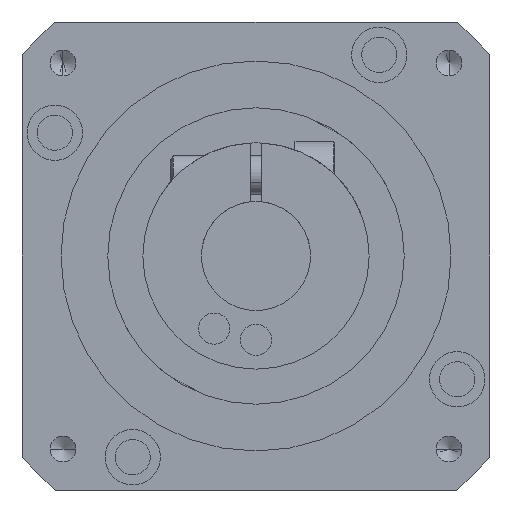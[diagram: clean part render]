
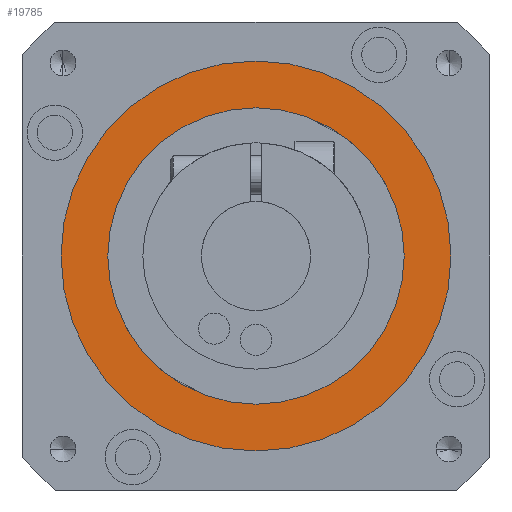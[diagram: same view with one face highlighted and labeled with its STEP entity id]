
A CAD part, front view. The second image highlights one B-rep face of the part: STEP entity #19785.
In plain terms, the highlighted planar face has unit normal (0, -1, 0).
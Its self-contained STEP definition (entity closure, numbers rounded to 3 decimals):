
#1479 = CIRCLE ( 'NONE', #23148, 25. ) ;
#3164 = AXIS2_PLACEMENT_3D ( 'NONE', #12660, #12458, #12360 ) ;
#3379 = DIRECTION ( 'NONE',  ( 0., 0., 1. ) ) ;
#3483 = DIRECTION ( 'NONE',  ( 0., 1., 0. ) ) ;
#3595 = CARTESIAN_POINT ( 'NONE',  ( 0., -36., 0. ) ) ;
#4606 = FACE_BOUND ( 'NONE', #25715, .T. ) ;
#6307 = VERTEX_POINT ( 'NONE', #19021 ) ;
#7834 = CARTESIAN_POINT ( 'NONE',  ( 0., -36., 19. ) ) ;
#8188 = DIRECTION ( 'NONE',  ( 0., 0., 1. ) ) ;
#8215 = DIRECTION ( 'NONE',  ( 0., -1., 0. ) ) ;
#8250 = CARTESIAN_POINT ( 'NONE',  ( 0., -36., 0. ) ) ;
#9105 = AXIS2_PLACEMENT_3D ( 'NONE', #18597, #18565, #18499 ) ;
#9591 = VERTEX_POINT ( 'NONE', #15975 ) ;
#12360 = DIRECTION ( 'NONE',  ( 0., 0., 1. ) ) ;
#12458 = DIRECTION ( 'NONE',  ( 0., -1., 0. ) ) ;
#12660 = CARTESIAN_POINT ( 'NONE',  ( 0., -36., 0. ) ) ;
#14044 = CIRCLE ( 'NONE', #22446, 19. ) ;
#14233 = EDGE_CURVE ( 'NONE', #6307, #24536, #1479, .T. ) ;
#14423 = ORIENTED_EDGE ( 'NONE', *, *, #15842, .T. ) ;
#14885 = DIRECTION ( 'NONE',  ( 0., 0., 1. ) ) ;
#14919 = DIRECTION ( 'NONE',  ( 0., 1., 0. ) ) ;
#14975 = CARTESIAN_POINT ( 'NONE',  ( 25., -36., 0. ) ) ;
#15009 = PLANE ( 'NONE',  #29323 ) ;
#15842 = EDGE_CURVE ( 'NONE', #9591, #26922, #15865, .T. ) ;
#15852 = CARTESIAN_POINT ( 'NONE',  ( 0., -36., -25. ) ) ;
#15865 = CIRCLE ( 'NONE', #9105, 19. ) ;
#15975 = CARTESIAN_POINT ( 'NONE',  ( 0., -36., -19. ) ) ;
#16852 = FACE_OUTER_BOUND ( 'NONE', #24891, .T. ) ;
#18499 = DIRECTION ( 'NONE',  ( 0., 0., 1. ) ) ;
#18565 = DIRECTION ( 'NONE',  ( 0., 1., 0. ) ) ;
#18597 = CARTESIAN_POINT ( 'NONE',  ( 0., -36., 0. ) ) ;
#19021 = CARTESIAN_POINT ( 'NONE',  ( 0., -36., 25. ) ) ;
#19785 = ADVANCED_FACE ( 'NONE', ( #16852, #4606 ), #15009, .F. ) ;
#22446 = AXIS2_PLACEMENT_3D ( 'NONE', #3595, #3483, #3379 ) ;
#23148 = AXIS2_PLACEMENT_3D ( 'NONE', #8250, #8215, #8188 ) ;
#23361 = EDGE_CURVE ( 'NONE', #24536, #6307, #28721, .T. ) ;
#23538 = EDGE_CURVE ( 'NONE', #26922, #9591, #14044, .T. ) ;
#24536 = VERTEX_POINT ( 'NONE', #15852 ) ;
#24891 = EDGE_LOOP ( 'NONE', ( #26665, #28947 ) ) ;
#25715 = EDGE_LOOP ( 'NONE', ( #25845, #14423 ) ) ;
#25845 = ORIENTED_EDGE ( 'NONE', *, *, #23538, .T. ) ;
#26665 = ORIENTED_EDGE ( 'NONE', *, *, #14233, .T. ) ;
#26922 = VERTEX_POINT ( 'NONE', #7834 ) ;
#28721 = CIRCLE ( 'NONE', #3164, 25. ) ;
#28947 = ORIENTED_EDGE ( 'NONE', *, *, #23361, .T. ) ;
#29323 = AXIS2_PLACEMENT_3D ( 'NONE', #14975, #14919, #14885 ) ;
